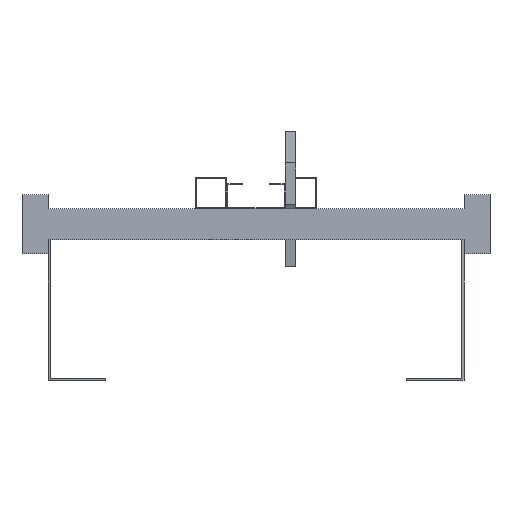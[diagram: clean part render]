
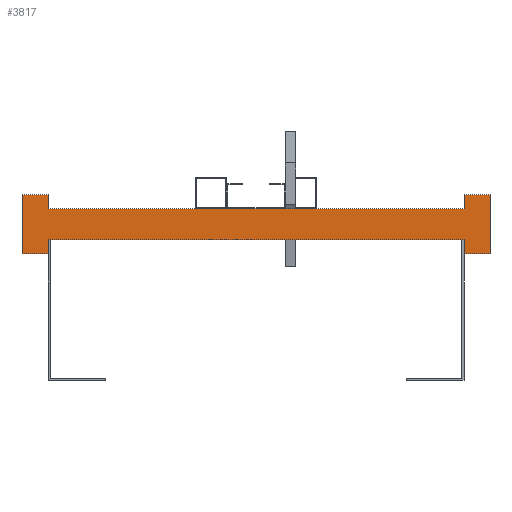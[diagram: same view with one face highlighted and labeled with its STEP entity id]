
A CAD part, front view. The second image highlights one B-rep face of the part: STEP entity #3817.
In plain terms, the highlighted planar face has unit normal (0, -1, 0).
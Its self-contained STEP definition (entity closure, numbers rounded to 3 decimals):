
#1361=DIRECTION('',(0.,0.,1.));
#1362=VECTOR('',#1361,13.5);
#1363=CARTESIAN_POINT('',(200.,0.,-28.5));
#1364=LINE('',#1363,#1362);
#1365=DIRECTION('',(0.,0.,-1.));
#1366=VECTOR('',#1365,13.5);
#1367=CARTESIAN_POINT('',(-200.,0.,-15.));
#1368=LINE('',#1367,#1366);
#1369=DIRECTION('',(-1.,0.,0.));
#1370=VECTOR('',#1369,25.);
#1371=CARTESIAN_POINT('',(-200.,0.,-28.5));
#1372=LINE('',#1371,#1370);
#1373=DIRECTION('',(0.,0.,1.));
#1374=VECTOR('',#1373,57.);
#1375=CARTESIAN_POINT('',(-225.,0.,-28.5));
#1376=LINE('',#1375,#1374);
#1377=DIRECTION('',(1.,0.,0.));
#1378=VECTOR('',#1377,25.);
#1379=CARTESIAN_POINT('',(-225.,0.,28.5));
#1380=LINE('',#1379,#1378);
#1381=DIRECTION('',(0.,0.,-1.));
#1382=VECTOR('',#1381,13.5);
#1383=CARTESIAN_POINT('',(-200.,0.,28.5));
#1384=LINE('',#1383,#1382);
#1385=DIRECTION('',(0.,0.,1.));
#1386=VECTOR('',#1385,13.5);
#1387=CARTESIAN_POINT('',(200.,0.,15.));
#1388=LINE('',#1387,#1386);
#1389=DIRECTION('',(1.,0.,0.));
#1390=VECTOR('',#1389,25.);
#1391=CARTESIAN_POINT('',(200.,0.,28.5));
#1392=LINE('',#1391,#1390);
#1393=DIRECTION('',(0.,0.,-1.));
#1394=VECTOR('',#1393,57.);
#1395=CARTESIAN_POINT('',(225.,0.,28.5));
#1396=LINE('',#1395,#1394);
#1397=DIRECTION('',(-1.,0.,0.));
#1398=VECTOR('',#1397,25.);
#1399=CARTESIAN_POINT('',(225.,0.,-28.5));
#1400=LINE('',#1399,#1398);
#1401=DIRECTION('',(1.,0.,0.));
#1402=VECTOR('',#1401,400.);
#1403=CARTESIAN_POINT('',(-200.,0.,-15.));
#1404=LINE('',#1403,#1402);
#1413=DIRECTION('',(1.,0.,0.));
#1414=VECTOR('',#1413,400.);
#1415=CARTESIAN_POINT('',(-200.,0.,15.));
#1416=LINE('',#1415,#1414);
#1553=CARTESIAN_POINT('',(-225.,0.,28.5));
#1554=CARTESIAN_POINT('',(-200.,0.,28.5));
#1555=VERTEX_POINT('',#1553);
#1556=VERTEX_POINT('',#1554);
#1557=CARTESIAN_POINT('',(-200.,0.,-28.5));
#1558=CARTESIAN_POINT('',(-225.,0.,-28.5));
#1559=VERTEX_POINT('',#1557);
#1560=VERTEX_POINT('',#1558);
#1561=CARTESIAN_POINT('',(225.,0.,28.5));
#1562=CARTESIAN_POINT('',(225.,0.,-28.5));
#1563=VERTEX_POINT('',#1561);
#1564=VERTEX_POINT('',#1562);
#1565=CARTESIAN_POINT('',(200.,0.,-28.5));
#1566=VERTEX_POINT('',#1565);
#1567=CARTESIAN_POINT('',(200.,0.,28.5));
#1568=VERTEX_POINT('',#1567);
#1585=CARTESIAN_POINT('',(-200.,0.,-15.));
#1587=VERTEX_POINT('',#1585);
#1589=CARTESIAN_POINT('',(-200.,0.,15.));
#1591=VERTEX_POINT('',#1589);
#1593=CARTESIAN_POINT('',(200.,0.,-15.));
#1595=VERTEX_POINT('',#1593);
#1597=CARTESIAN_POINT('',(200.,0.,15.));
#1599=VERTEX_POINT('',#1597);
#3793=CARTESIAN_POINT('',(0.,0.,0.));
#3794=DIRECTION('',(0.,1.,0.));
#3795=DIRECTION('',(1.,0.,0.));
#3796=AXIS2_PLACEMENT_3D('',#3793,#3794,#3795);
#3797=PLANE('',#3796);
#3798=ORIENTED_EDGE('',*,*,#2332,.T.);
#3800=ORIENTED_EDGE('',*,*,#3799,.F.);
#3801=ORIENTED_EDGE('',*,*,#2062,.T.);
#3802=ORIENTED_EDGE('',*,*,#3313,.T.);
#3804=ORIENTED_EDGE('',*,*,#3803,.T.);
#3805=ORIENTED_EDGE('',*,*,#3784,.T.);
#3806=ORIENTED_EDGE('',*,*,#2070,.T.);
#3808=ORIENTED_EDGE('',*,*,#3807,.T.);
#3809=ORIENTED_EDGE('',*,*,#2324,.T.);
#3811=ORIENTED_EDGE('',*,*,#3810,.T.);
#3813=ORIENTED_EDGE('',*,*,#3812,.T.);
#3814=ORIENTED_EDGE('',*,*,#3214,.T.);
#3815=EDGE_LOOP('',(#3798,#3800,#3801,#3802,#3804,#3805,#3806,#3808,#3809,#3811,
#3813,#3814));
#3816=FACE_OUTER_BOUND('',#3815,.F.);
#2062=EDGE_CURVE('',#1587,#1559,#1368,.T.);
#2070=EDGE_CURVE('',#1556,#1591,#1384,.T.);
#2324=EDGE_CURVE('',#1599,#1568,#1388,.T.);
#2332=EDGE_CURVE('',#1566,#1595,#1364,.T.);
#3214=EDGE_CURVE('',#1564,#1566,#1400,.T.);
#3313=EDGE_CURVE('',#1559,#1560,#1372,.T.);
#3784=EDGE_CURVE('',#1555,#1556,#1380,.T.);
#3799=EDGE_CURVE('',#1587,#1595,#1404,.T.);
#3803=EDGE_CURVE('',#1560,#1555,#1376,.T.);
#3807=EDGE_CURVE('',#1591,#1599,#1416,.T.);
#3810=EDGE_CURVE('',#1568,#1563,#1392,.T.);
#3812=EDGE_CURVE('',#1563,#1564,#1396,.T.);
#3817=ADVANCED_FACE('',(#3816),#3797,.F.);
